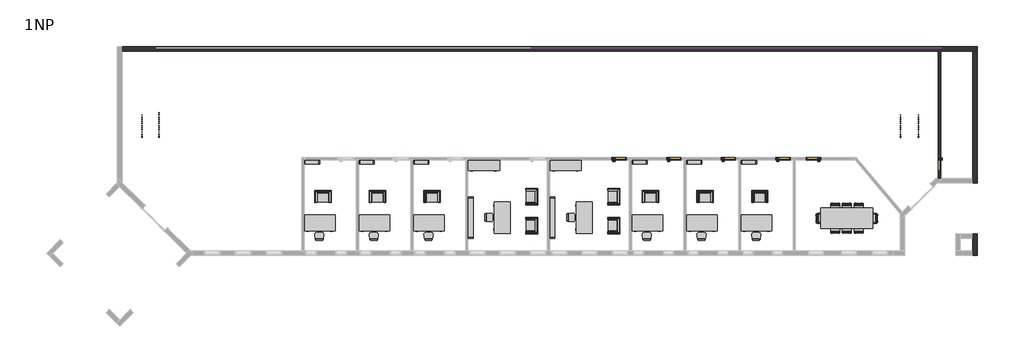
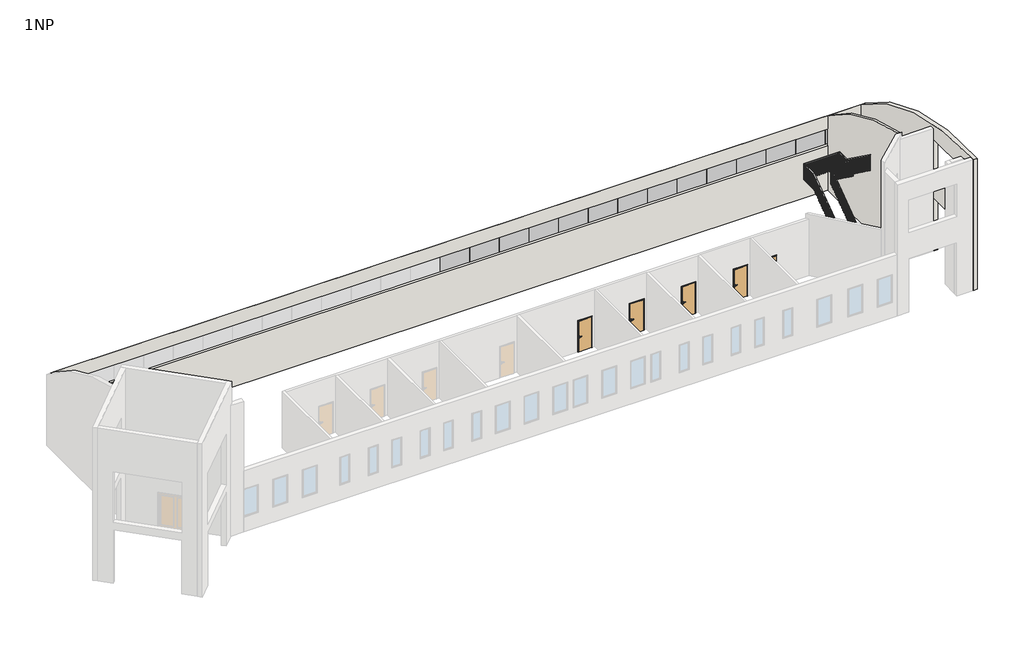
# One storey, part 3 of 3: 45 furniture elements, 14 plates, 6 doors, 4 railings, 3 walls.
"""IFC4 building model written with IfcOpenShell, lengths in millimetres."""

from ifc_helpers import new_model, si_unit, point, frame, frame_2d, origin, place, context, project, spatial, polyline, circle_curve, trimmed, segment, composite_curve, outline, extrude, transform, mapped, element, save
from ifc_brep_helpers import plane_surface, cylinder_surface, advanced_brep
from components import door_900_x_2000_4c66a93d, door_900_x_2000_c64c60ef, furniture_b7f3823b, furniture_3b363349, furniture_ccc35c8f, furniture_2764bdef, furniture_0915_x_0254_x_1830mm_1d5e155e, furniture_1200_x_3050mm_930714f4, furniture_1800_x_900mm_2fcb012d, furniture_1830_x_0610mm_1080a9db, furniture_2440_x_0305_x_2134mm_59c1a9e4, system_panel_glazed_e7f7cd54, system_panel_glazed_2bdfee25, railing_1100mm_7da75a1e, railing_1100mm_276dff7a, railing_1100mm_749a05fc, railing_1100mm_07c990a1

model = new_model("IFC4")

# Units and contexts
model_context = context("Model", 3, world=origin())
ifc_project = project(units=[si_unit("LENGTHUNIT", "METRE", prefix="MILLI")], contexts=[model_context])

# Site, building, storey
site = spatial("IfcSite", under=ifc_project)
building = spatial("IfcBuilding", under=site)
storey = spatial("IfcBuildingStorey", under=building, Name="1NP", Elevation=0.0)

# Doors
placement = place(None, origin())
door_900_x_2000_shape = door_900_x_2000_4c66a93d(model_context)
element("IfcDoor", 1, ObjectType="Jednokridle oboustrana zaruben : 900 x 2000", at=placement, inside=storey, context=model_context, shape_type="MappedRepresentation", body=[
    mapped(door_900_x_2000_shape, transform((29135.9255273, 791.5551306, 0.0), x_axis=(1.0, 0.0, 0.0), y_axis=(0.0, 1.0, 0.0), z_axis=(0.0, 0.0, 1.0))),
])
element("IfcDoor", 2, ObjectType="Jednokridle oboustrana zaruben : 900 x 2000", at=placement, inside=storey, context=model_context, shape_type="MappedRepresentation", body=[
    mapped(door_900_x_2000_shape, transform((36489.1755273, 502.5551306, 0.0), x_axis=(0.0, 1.0, 0.0), y_axis=(-1.0, 0.0, 0.0), z_axis=(0.0, 0.0, 1.0))),
])
door_900_x_2000_2_shape = door_900_x_2000_c64c60ef(model_context)
element("IfcDoor", 3, ObjectType="Jednokridle oboustrana zaruben : 900 x 2000", at=placement, inside=storey, context=model_context, shape_type="MappedRepresentation", body=[
    mapped(door_900_x_2000_2_shape, transform((20899.9255273, 791.5551306, 0.0), x_axis=(-1.0, 0.0, 0.0), y_axis=(0.0, -1.0, 0.0), z_axis=(0.0, 0.0, 1.0))),
])
element("IfcDoor", 4, ObjectType="Jednokridle oboustrana zaruben : 900 x 2000", at=placement, inside=storey, context=model_context, shape_type="MappedRepresentation", body=[
    mapped(door_900_x_2000_2_shape, transform((24099.9255273, 791.5551306, 0.0), x_axis=(-1.0, 0.0, 0.0), y_axis=(0.0, -1.0, 0.0), z_axis=(0.0, 0.0, 1.0))),
])
element("IfcDoor", 5, ObjectType="Jednokridle oboustrana zaruben : 900 x 2000", at=placement, inside=storey, context=model_context, shape_type="MappedRepresentation", body=[
    mapped(door_900_x_2000_2_shape, transform((27299.9255273, 791.5551306, 0.0), x_axis=(-1.0, 0.0, 0.0), y_axis=(0.0, -1.0, 0.0), z_axis=(0.0, 0.0, 1.0))),
])
element("IfcDoor", 6, ObjectType="Jednokridle oboustrana zaruben : 900 x 2000", at=placement, inside=storey, context=model_context, shape_type="MappedRepresentation", body=[
    mapped(door_900_x_2000_2_shape, transform((17699.9255273, 791.5551306, 0.0), x_axis=(-1.0, 0.0, 0.0), y_axis=(0.0, -1.0, 0.0), z_axis=(0.0, 0.0, 1.0))),
])

# Furniture
furniture_shape = furniture_b7f3823b(model_context)
element("IfcFurniture", 7, ObjectType="Prac.zidleH : Prac.zidleHranata", at=placement, inside=storey, context=model_context, shape_type="MappedRepresentation", body=[
    mapped(furniture_shape, transform((31897.6750188, -2087.6223918, 0.0), x_axis=(-1.0000000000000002, 0.0, 0.0), y_axis=(0.0, -1.0000000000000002, 0.0), z_axis=(0.0, 0.0, 1.0))),
])
element("IfcFurniture", 8, ObjectType="Prac.zidleH : Prac.zidleHranata", at=placement, inside=storey, context=model_context, shape_type="MappedRepresentation", body=[
    mapped(furniture_shape, transform((31615.6933794, -3325.5141951, 0.0), x_axis=(1.0000000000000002, 0.0, 0.0), y_axis=(0.0, 1.0000000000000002, 0.0), z_axis=(0.0, 0.0, 1.0))),
])
element("IfcFurniture", 9, ObjectType="Prac.zidleH : Prac.zidleHranata", at=placement, inside=storey, context=model_context, shape_type="MappedRepresentation", body=[
    mapped(furniture_shape, transform((30527.9250188, -2087.6223918, 0.0), x_axis=(-1.0000000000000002, 0.0, 0.0), y_axis=(0.0, -1.0000000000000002, 0.0), z_axis=(0.0, 0.0, 1.0))),
])
element("IfcFurniture", 10, ObjectType="Prac.zidleH : Prac.zidleHranata", at=placement, inside=storey, context=model_context, shape_type="MappedRepresentation", body=[
    mapped(furniture_shape, transform((30245.9433794, -3325.5141951, 0.0), x_axis=(1.0000000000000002, 0.0, 0.0), y_axis=(0.0, 1.0000000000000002, 0.0), z_axis=(0.0, 0.0, 1.0))),
])
element("IfcFurniture", 11, ObjectType="Prac.zidleH : Prac.zidleHranata", at=placement, inside=storey, context=model_context, shape_type="MappedRepresentation", body=[
    mapped(furniture_shape, transform((31212.8000188, -2087.6223918, 0.0), x_axis=(-1.0000000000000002, 0.0, 0.0), y_axis=(0.0, -1.0000000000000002, 0.0), z_axis=(0.0, 0.0, 1.0))),
])
element("IfcFurniture", 12, ObjectType="Prac.zidleH : Prac.zidleHranata", at=placement, inside=storey, context=model_context, shape_type="MappedRepresentation", body=[
    mapped(furniture_shape, transform((30930.8183794, -3325.5141951, 0.0), x_axis=(1.0000000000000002, 0.0, 0.0), y_axis=(0.0, 1.0000000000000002, 0.0), z_axis=(0.0, 0.0, 1.0))),
])
furniture_2_shape = furniture_3b363349(model_context)
element("IfcFurniture", 13, ObjectType="Prac.zidleP : Prac.zidlePodrucky", at=placement, inside=storey, context=model_context, shape_type="MappedRepresentation", body=[
    mapped(furniture_2_shape, transform((32615.6301008, -2847.5591131, 0.0), x_axis=(0.0, 1.0000000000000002, 0.0), y_axis=(-1.0000000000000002, 0.0, 0.0), z_axis=(0.0, 0.0, 1.0))),
])
element("IfcFurniture", 14, ObjectType="Prac.zidleP : Prac.zidlePodrucky", at=placement, inside=storey, context=model_context, shape_type="MappedRepresentation", body=[
    mapped(furniture_2_shape, transform((29527.7382975, -2565.5774738, 0.0), x_axis=(0.0, -1.0000000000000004, 0.0), y_axis=(1.0000000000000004, 0.0, 0.0), z_axis=(0.0, 0.0, 1.0))),
])
furniture_3_shape = furniture_ccc35c8f(model_context)
element("IfcFurniture", 15, ObjectType="Prac.zidle : prac.zidleZaobl", at=placement, inside=storey, context=model_context, shape_type="MappedRepresentation", body=[
    mapped(furniture_3_shape, transform((149.9255273, -3938.9177984, 0.0), x_axis=(1.0, 0.0, 0.0), y_axis=(0.0, 1.0, 0.0), z_axis=(0.0, 0.0, 1.0))),
])
element("IfcFurniture", 16, ObjectType="Prac.zidle : prac.zidleZaobl", at=placement, inside=storey, context=model_context, shape_type="MappedRepresentation", body=[
    mapped(furniture_3_shape, transform((3349.9255273, -3938.9177984, 0.0), x_axis=(1.0, 0.0, 0.0), y_axis=(0.0, 1.0, 0.0), z_axis=(0.0, 0.0, 1.0))),
])
element("IfcFurniture", 17, ObjectType="Prac.zidle : prac.zidleZaobl", at=placement, inside=storey, context=model_context, shape_type="MappedRepresentation", body=[
    mapped(furniture_3_shape, transform((6549.9255273, -3938.9177984, 0.0), x_axis=(1.0, 0.0, 0.0), y_axis=(0.0, 1.0, 0.0), z_axis=(0.0, 0.0, 1.0))),
])
element("IfcFurniture", 18, ObjectType="Prac.zidle : prac.zidleZaobl", at=placement, inside=storey, context=model_context, shape_type="MappedRepresentation", body=[
    mapped(furniture_3_shape, transform((9920.3097542, -2661.8601839, 0.0), x_axis=(0.0, -1.0000000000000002, 0.0), y_axis=(1.0000000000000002, 0.0, 0.0), z_axis=(0.0, 0.0, 1.0))),
])
element("IfcFurniture", 19, ObjectType="Prac.zidle : prac.zidleZaobl", at=placement, inside=storey, context=model_context, shape_type="MappedRepresentation", body=[
    mapped(furniture_3_shape, transform((19349.9255273, -3938.9177984, 0.0), x_axis=(1.0, 0.0, 0.0), y_axis=(0.0, 1.0, 0.0), z_axis=(0.0, 0.0, 1.0))),
])
element("IfcFurniture", 20, ObjectType="Prac.zidle : prac.zidleZaobl", at=placement, inside=storey, context=model_context, shape_type="MappedRepresentation", body=[
    mapped(furniture_3_shape, transform((22549.9255273, -3938.9177984, 0.0), x_axis=(1.0, 0.0, 0.0), y_axis=(0.0, 1.0, 0.0), z_axis=(0.0, 0.0, 1.0))),
])
element("IfcFurniture", 21, ObjectType="Prac.zidle : prac.zidleZaobl", at=placement, inside=storey, context=model_context, shape_type="MappedRepresentation", body=[
    mapped(furniture_3_shape, transform((25749.9255273, -3938.9177984, 0.0), x_axis=(1.0, 0.0, 0.0), y_axis=(0.0, 1.0, 0.0), z_axis=(0.0, 0.0, 1.0))),
])
element("IfcFurniture", 22, ObjectType="Prac.zidle : prac.zidleZaobl", at=placement, inside=storey, context=model_context, shape_type="MappedRepresentation", body=[
    mapped(furniture_3_shape, transform((14720.3097542, -2661.8601839, 0.0), x_axis=(0.0, -1.0, 0.0), y_axis=(1.0, 0.0, 0.0), z_axis=(0.0, 0.0, 1.0))),
])
furniture_4_shape = furniture_2764bdef(model_context)
element("IfcFurniture", 23, ObjectType="KresilkoCorbusier : KresilkoCorbusier", at=placement, inside=storey, context=model_context, shape_type="MappedRepresentation", body=[
    mapped(furniture_4_shape, transform((2989.3517568, -1887.3719186, 0.0), x_axis=(1.0, 0.0, 0.0), y_axis=(0.0, 1.0, 0.0), z_axis=(0.0, 0.0, 1.0))),
])
element("IfcFurniture", 24, ObjectType="KresilkoCorbusier : KresilkoCorbusier", at=placement, inside=storey, context=model_context, shape_type="MappedRepresentation", body=[
    mapped(furniture_4_shape, transform((-210.6482432, -1887.3719186, 0.0), x_axis=(1.0, 0.0, 0.0), y_axis=(0.0, 1.0, 0.0), z_axis=(0.0, 0.0, 1.0))),
])
element("IfcFurniture", 25, ObjectType="KresilkoCorbusier : KresilkoCorbusier", at=placement, inside=storey, context=model_context, shape_type="MappedRepresentation", body=[
    mapped(furniture_4_shape, transform((6189.3517568, -1887.3719186, 0.0), x_axis=(1.0, 0.0, 0.0), y_axis=(0.0, 1.0, 0.0), z_axis=(0.0, 0.0, 1.0))),
])
element("IfcFurniture", 26, ObjectType="KresilkoCorbusier : KresilkoCorbusier", at=placement, inside=storey, context=model_context, shape_type="MappedRepresentation", body=[
    mapped(furniture_4_shape, transform((12135.7353038, -861.9944392, 0.0), x_axis=(0.0, -1.0000000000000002, 0.0), y_axis=(1.0000000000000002, 0.0, 0.0), z_axis=(0.0, 0.0, 1.0))),
])
element("IfcFurniture", 27, ObjectType="KresilkoCorbusier : KresilkoCorbusier", at=placement, inside=storey, context=model_context, shape_type="MappedRepresentation", body=[
    mapped(furniture_4_shape, transform((18989.3517568, -1887.3719186, 0.0), x_axis=(1.0, 0.0, 0.0), y_axis=(0.0, 1.0, 0.0), z_axis=(0.0, 0.0, 1.0))),
])
element("IfcFurniture", 28, ObjectType="KresilkoCorbusier : KresilkoCorbusier", at=placement, inside=storey, context=model_context, shape_type="MappedRepresentation", body=[
    mapped(furniture_4_shape, transform((22189.3517568, -1887.3719186, 0.0), x_axis=(1.0, 0.0, 0.0), y_axis=(0.0, 1.0, 0.0), z_axis=(0.0, 0.0, 1.0))),
])
element("IfcFurniture", 29, ObjectType="KresilkoCorbusier : KresilkoCorbusier", at=placement, inside=storey, context=model_context, shape_type="MappedRepresentation", body=[
    mapped(furniture_4_shape, transform((25389.3517568, -1887.3719186, 0.0), x_axis=(1.0, 0.0, 0.0), y_axis=(0.0, 1.0, 0.0), z_axis=(0.0, 0.0, 1.0))),
])
element("IfcFurniture", 30, ObjectType="KresilkoCorbusier : KresilkoCorbusier", at=placement, inside=storey, context=model_context, shape_type="MappedRepresentation", body=[
    mapped(furniture_4_shape, transform((12135.7353038, -2557.1944392, 0.0), x_axis=(0.0, -1.0000000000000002, 0.0), y_axis=(1.0000000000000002, 0.0, 0.0), z_axis=(0.0, 0.0, 1.0))),
])
element("IfcFurniture", 31, ObjectType="KresilkoCorbusier : KresilkoCorbusier", at=placement, inside=storey, context=model_context, shape_type="MappedRepresentation", body=[
    mapped(furniture_4_shape, transform((16935.7353038, -861.9944392, 0.0), x_axis=(0.0, -1.0, 0.0), y_axis=(1.0, 0.0, 0.0), z_axis=(0.0, 0.0, 1.0))),
])
element("IfcFurniture", 32, ObjectType="KresilkoCorbusier : KresilkoCorbusier", at=placement, inside=storey, context=model_context, shape_type="MappedRepresentation", body=[
    mapped(furniture_4_shape, transform((16935.7353038, -2557.1944392, 0.0), x_axis=(0.0, -1.0, 0.0), y_axis=(1.0, 0.0, 0.0), z_axis=(0.0, 0.0, 1.0))),
])
furniture_0915_x_0254_x_1830mm_shape = furniture_0915_x_0254_x_1830mm_1d5e155e(model_context)
element("IfcFurniture", 33, ObjectType="PolicovaSkrin : 0915 x 0254 x 1830mm", at=placement, inside=storey, context=model_context, shape_type="MappedRepresentation", body=[
    mapped(furniture_0915_x_0254_x_1830mm_shape, transform((-284.0744727, 900.1051306, 0.0), x_axis=(1.0, 0.0, 0.0), y_axis=(0.0, 1.0, 0.0), z_axis=(0.0, 0.0, 1.0))),
])
element("IfcFurniture", 34, ObjectType="PolicovaSkrin : 0915 x 0254 x 1830mm", at=placement, inside=storey, context=model_context, shape_type="MappedRepresentation", body=[
    mapped(furniture_0915_x_0254_x_1830mm_shape, transform((2915.9255273, 900.1051306, 0.0), x_axis=(1.0, 0.0, 0.0), y_axis=(0.0, 1.0, 0.0), z_axis=(0.0, 0.0, 1.0))),
])
element("IfcFurniture", 35, ObjectType="PolicovaSkrin : 0915 x 0254 x 1830mm", at=placement, inside=storey, context=model_context, shape_type="MappedRepresentation", body=[
    mapped(furniture_0915_x_0254_x_1830mm_shape, transform((6115.9255273, 900.1051306, 0.0), x_axis=(1.0, 0.0, 0.0), y_axis=(0.0, 1.0, 0.0), z_axis=(0.0, 0.0, 1.0))),
])
element("IfcFurniture", 36, ObjectType="PolicovaSkrin : 0915 x 0254 x 1830mm", at=placement, inside=storey, context=model_context, shape_type="MappedRepresentation", body=[
    mapped(furniture_0915_x_0254_x_1830mm_shape, transform((18915.9255273, 900.1051306, 0.0), x_axis=(1.0, 0.0, 0.0), y_axis=(0.0, 1.0, 0.0), z_axis=(0.0, 0.0, 1.0))),
])
element("IfcFurniture", 37, ObjectType="PolicovaSkrin : 0915 x 0254 x 1830mm", at=placement, inside=storey, context=model_context, shape_type="MappedRepresentation", body=[
    mapped(furniture_0915_x_0254_x_1830mm_shape, transform((22115.9255273, 900.1051306, 0.0), x_axis=(1.0, 0.0, 0.0), y_axis=(0.0, 1.0, 0.0), z_axis=(0.0, 0.0, 1.0))),
])
element("IfcFurniture", 38, ObjectType="PolicovaSkrin : 0915 x 0254 x 1830mm", at=placement, inside=storey, context=model_context, shape_type="MappedRepresentation", body=[
    mapped(furniture_0915_x_0254_x_1830mm_shape, transform((25315.9255273, 900.1051306, 0.0), x_axis=(1.0, 0.0, 0.0), y_axis=(0.0, 1.0, 0.0), z_axis=(0.0, 0.0, 1.0))),
])
furniture_1200_x_3050mm_shape = furniture_1200_x_3050mm_930714f4(model_context)
element("IfcFurniture", 39, ObjectType="Konf.stul : 1200 x 3050mm", at=placement, inside=storey, context=model_context, shape_type="MappedRepresentation", body=[
    mapped(furniture_1200_x_3050mm_shape, transform((31071.6841991, -2706.5682935, 0.0), x_axis=(-1.0000000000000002, 0.0, 0.0), y_axis=(0.0, -1.0000000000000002, 0.0), z_axis=(0.0, 0.0, 1.0))),
])
furniture_1800_x_900mm_shape = furniture_1800_x_900mm_2fcb012d(model_context)
element("IfcFurniture", 40, ObjectType="Prac.stul : 1800 x 900mm", at=placement, inside=storey, context=model_context, shape_type="MappedRepresentation", body=[
    mapped(furniture_1800_x_900mm_shape, transform((1058.4255273, -2534.8677984, 0.0), x_axis=(-1.0, 0.0, 0.0), y_axis=(0.0, -1.0, 0.0), z_axis=(0.0, 0.0, 1.0))),
])
element("IfcFurniture", 41, ObjectType="Prac.stul : 1800 x 900mm", at=placement, inside=storey, context=model_context, shape_type="MappedRepresentation", body=[
    mapped(furniture_1800_x_900mm_shape, transform((4258.4255273, -2534.8677984, 0.0), x_axis=(-1.0, 0.0, 0.0), y_axis=(0.0, -1.0, 0.0), z_axis=(0.0, 0.0, 1.0))),
])
element("IfcFurniture", 42, ObjectType="Prac.stul : 1800 x 900mm", at=placement, inside=storey, context=model_context, shape_type="MappedRepresentation", body=[
    mapped(furniture_1800_x_900mm_shape, transform((7458.4255273, -2534.8677984, 0.0), x_axis=(-1.0, 0.0, 0.0), y_axis=(0.0, -1.0, 0.0), z_axis=(0.0, 0.0, 1.0))),
])
element("IfcFurniture", 43, ObjectType="Prac.stul : 1800 x 900mm", at=placement, inside=storey, context=model_context, shape_type="MappedRepresentation", body=[
    mapped(furniture_1800_x_900mm_shape, transform((11324.3597542, -3570.3601839, 0.0), x_axis=(0.0, 1.0000000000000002, 0.0), y_axis=(-1.0000000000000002, 0.0, 0.0), z_axis=(0.0, 0.0, 1.0))),
])
element("IfcFurniture", 44, ObjectType="Prac.stul : 1800 x 900mm", at=placement, inside=storey, context=model_context, shape_type="MappedRepresentation", body=[
    mapped(furniture_1800_x_900mm_shape, transform((20258.4255273, -2534.8677984, 0.0), x_axis=(-1.0, 0.0, 0.0), y_axis=(0.0, -1.0, 0.0), z_axis=(0.0, 0.0, 1.0))),
])
element("IfcFurniture", 45, ObjectType="Prac.stul : 1800 x 900mm", at=placement, inside=storey, context=model_context, shape_type="MappedRepresentation", body=[
    mapped(furniture_1800_x_900mm_shape, transform((23458.4255273, -2534.8677984, 0.0), x_axis=(-1.0, 0.0, 0.0), y_axis=(0.0, -1.0, 0.0), z_axis=(0.0, 0.0, 1.0))),
])
element("IfcFurniture", 46, ObjectType="Prac.stul : 1800 x 900mm", at=placement, inside=storey, context=model_context, shape_type="MappedRepresentation", body=[
    mapped(furniture_1800_x_900mm_shape, transform((26658.4255273, -2534.8677984, 0.0), x_axis=(-1.0, 0.0, 0.0), y_axis=(0.0, -1.0, 0.0), z_axis=(0.0, 0.0, 1.0))),
])
element("IfcFurniture", 47, ObjectType="Prac.stul : 1800 x 900mm", at=placement, inside=storey, context=model_context, shape_type="MappedRepresentation", body=[
    mapped(furniture_1800_x_900mm_shape, transform((16124.3597542, -3570.3601839, 0.0), x_axis=(0.0, 1.0, 0.0), y_axis=(-1.0, 0.0, 0.0), z_axis=(0.0, 0.0, 1.0))),
])
furniture_1830_x_0610mm_shape = furniture_1830_x_0610mm_1080a9db(model_context)
element("IfcFurniture", 48, ObjectType="SkrinNizka : 1830 x 0610mm", at=placement, inside=storey, context=model_context, shape_type="MappedRepresentation", body=[
    mapped(furniture_1830_x_0610mm_shape, transform((9713.881265, 412.7248027, 0.0), x_axis=(1.0, 0.0, 0.0), y_axis=(0.0, 1.0, 0.0), z_axis=(0.0, 0.0, 1.0))),
])
element("IfcFurniture", 49, ObjectType="SkrinNizka : 1830 x 0610mm", at=placement, inside=storey, context=model_context, shape_type="MappedRepresentation", body=[
    mapped(furniture_1830_x_0610mm_shape, transform((14513.881265, 412.7248027, 0.0), x_axis=(1.0, 0.0, 0.0), y_axis=(0.0, 1.0, 0.0), z_axis=(0.0, 0.0, 1.0))),
])
furniture_2440_x_0305_x_2134mm_shape = furniture_2440_x_0305_x_2134mm_59c1a9e4(model_context)
element("IfcFurniture", 50, ObjectType="PolicovaSkrin : 2440 x 0305 x 2134mm", at=placement, inside=storey, context=model_context, shape_type="MappedRepresentation", body=[
    mapped(furniture_2440_x_0305_x_2134mm_shape, transform((9315.7255273, -2670.3601839, 0.0), x_axis=(0.0, -1.0000000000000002, 0.0), y_axis=(1.0000000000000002, 0.0, 0.0), z_axis=(0.0, 0.0, 1.0))),
])
element("IfcFurniture", 51, ObjectType="PolicovaSkrin : 2440 x 0305 x 2134mm", at=placement, inside=storey, context=model_context, shape_type="MappedRepresentation", body=[
    mapped(furniture_2440_x_0305_x_2134mm_shape, transform((14115.7255273, -2670.3601839, 0.0), x_axis=(0.0, -1.0, 0.0), y_axis=(1.0, 0.0, 0.0), z_axis=(0.0, 0.0, 1.0))),
])

# Plates
system_panel_glazed_shape = system_panel_glazed_e7f7cd54(model_context)
element("IfcPlate", 52, ObjectType="System Panel : Glazed", at=placement, inside=storey, context=model_context, shape_type="MappedRepresentation", body=[
    mapped(system_panel_glazed_shape, transform((13464.1755273, 7241.5551306, 2916.2475184), x_axis=(1.0, 0.0, 0.0), y_axis=(0.0, 1.0, 0.0), z_axis=(0.0, 0.0, 1.0))),
])
element("IfcPlate", 53, ObjectType="System Panel : Glazed", at=placement, inside=storey, context=model_context, shape_type="MappedRepresentation", body=[
    mapped(system_panel_glazed_shape, transform((15294.1755273, 7241.5551306, 2916.2475184), x_axis=(1.0, 0.0, 0.0), y_axis=(0.0, 1.0, 0.0), z_axis=(0.0, 0.0, 1.0))),
])
element("IfcPlate", 54, ObjectType="System Panel : Glazed", at=placement, inside=storey, context=model_context, shape_type="MappedRepresentation", body=[
    mapped(system_panel_glazed_shape, transform((17124.1755273, 7241.5551306, 2916.2475184), x_axis=(1.0, 0.0, 0.0), y_axis=(0.0, 1.0, 0.0), z_axis=(0.0, 0.0, 1.0))),
])
element("IfcPlate", 55, ObjectType="System Panel : Glazed", at=placement, inside=storey, context=model_context, shape_type="MappedRepresentation", body=[
    mapped(system_panel_glazed_shape, transform((18954.1755273, 7241.5551306, 2916.2475184), x_axis=(1.0, 0.0, 0.0), y_axis=(0.0, 1.0, 0.0), z_axis=(0.0, 0.0, 1.0))),
])
element("IfcPlate", 56, ObjectType="System Panel : Glazed", at=placement, inside=storey, context=model_context, shape_type="MappedRepresentation", body=[
    mapped(system_panel_glazed_shape, transform((20784.1755273, 7241.5551306, 2916.2475184), x_axis=(1.0, 0.0, 0.0), y_axis=(0.0, 1.0, 0.0), z_axis=(0.0, 0.0, 1.0))),
])
element("IfcPlate", 57, ObjectType="System Panel : Glazed", at=placement, inside=storey, context=model_context, shape_type="MappedRepresentation", body=[
    mapped(system_panel_glazed_shape, transform((22614.1755273, 7241.5551306, 2916.2475184), x_axis=(1.0, 0.0, 0.0), y_axis=(0.0, 1.0, 0.0), z_axis=(0.0, 0.0, 1.0))),
])
element("IfcPlate", 58, ObjectType="System Panel : Glazed", at=placement, inside=storey, context=model_context, shape_type="MappedRepresentation", body=[
    mapped(system_panel_glazed_shape, transform((24444.1755273, 7241.5551306, 2916.2475184), x_axis=(1.0, 0.0, 0.0), y_axis=(0.0, 1.0, 0.0), z_axis=(0.0, 0.0, 1.0))),
])
element("IfcPlate", 59, ObjectType="System Panel : Glazed", at=placement, inside=storey, context=model_context, shape_type="MappedRepresentation", body=[
    mapped(system_panel_glazed_shape, transform((26274.1755273, 7241.5551306, 2916.2475184), x_axis=(1.0, 0.0, 0.0), y_axis=(0.0, 1.0, 0.0), z_axis=(0.0, 0.0, 1.0))),
])
element("IfcPlate", 60, ObjectType="System Panel : Glazed", at=placement, inside=storey, context=model_context, shape_type="MappedRepresentation", body=[
    mapped(system_panel_glazed_shape, transform((28104.1755273, 7241.5551306, 2916.2475184), x_axis=(1.0, 0.0, 0.0), y_axis=(0.0, 1.0, 0.0), z_axis=(0.0, 0.0, 1.0))),
])
element("IfcPlate", 61, ObjectType="System Panel : Glazed", at=placement, inside=storey, context=model_context, shape_type="MappedRepresentation", body=[
    mapped(system_panel_glazed_shape, transform((29934.1755273, 7241.5551306, 2916.2475184), x_axis=(1.0, 0.0, 0.0), y_axis=(0.0, 1.0, 0.0), z_axis=(0.0, 0.0, 1.0))),
])
element("IfcPlate", 62, ObjectType="System Panel : Glazed", at=placement, inside=storey, context=model_context, shape_type="MappedRepresentation", body=[
    mapped(system_panel_glazed_shape, transform((31764.1755273, 7241.5551306, 2916.2475184), x_axis=(1.0, 0.0, 0.0), y_axis=(0.0, 1.0, 0.0), z_axis=(0.0, 0.0, 1.0))),
])
element("IfcPlate", 63, ObjectType="System Panel : Glazed", at=placement, inside=storey, context=model_context, shape_type="MappedRepresentation", body=[
    mapped(system_panel_glazed_shape, transform((33594.1755273, 7241.5551306, 2916.2475184), x_axis=(1.0, 0.0, 0.0), y_axis=(0.0, 1.0, 0.0), z_axis=(0.0, 0.0, 1.0))),
])
element("IfcPlate", 64, ObjectType="System Panel : Glazed", at=placement, inside=storey, context=model_context, shape_type="MappedRepresentation", body=[
    mapped(system_panel_glazed_shape, transform((35424.1755273, 7241.5551306, 2916.2475184), x_axis=(1.0, 0.0, 0.0), y_axis=(0.0, 1.0, 0.0), z_axis=(0.0, 0.0, 1.0))),
])
system_panel_glazed_2_shape = system_panel_glazed_2bdfee25(model_context)
element("IfcPlate", 65, ObjectType="System Panel : Glazed", at=placement, inside=storey, context=model_context, shape_type="MappedRepresentation", body=[
    mapped(system_panel_glazed_2_shape, transform((36464.1755273, 7241.5551306, 2916.2475184), x_axis=(1.0, 0.0, 0.0), y_axis=(0.0, 1.0, 0.0), z_axis=(0.0, 0.0, 1.0))),
])

# Railings
railing_1100mm_shape = railing_1100mm_7da75a1e(model_context)
element("IfcRailing", 66, ObjectType="1100mm", at=placement, inside=storey, context=model_context, shape_type="MappedRepresentation", body=[
    mapped(railing_1100mm_shape, transform((0.0, 0.0, 0.0), x_axis=(1.0, 0.0, 0.0), y_axis=(0.0, 1.0, 0.0), z_axis=(0.0, 0.0, 1.0))),
])
railing_1100mm_2_shape = railing_1100mm_276dff7a(model_context)
element("IfcRailing", 67, ObjectType="1100mm", at=placement, inside=storey, context=model_context, shape_type="MappedRepresentation", body=[
    mapped(railing_1100mm_2_shape, transform((0.0, 0.0, 0.0), x_axis=(1.0, 0.0, 0.0), y_axis=(0.0, 1.0, 0.0), z_axis=(0.0, 0.0, 1.0))),
])
railing_1100mm_3_shape = railing_1100mm_749a05fc(model_context)
element("IfcRailing", 68, ObjectType="1100mm", at=placement, inside=storey, context=model_context, shape_type="MappedRepresentation", body=[
    mapped(railing_1100mm_3_shape, transform((0.0, 0.0, 0.0), x_axis=(1.0, 0.0, 0.0), y_axis=(0.0, 1.0, 0.0), z_axis=(0.0, 0.0, 1.0))),
])
railing_1100mm_4_shape = railing_1100mm_07c990a1(model_context)
element("IfcRailing", 69, ObjectType="1100mm", at=placement, inside=storey, context=model_context, shape_type="MappedRepresentation", body=[
    mapped(railing_1100mm_4_shape, transform((0.0, 0.0, 0.0), x_axis=(1.0, 0.0, 0.0), y_axis=(0.0, 1.0, 0.0), z_axis=(0.0, 0.0, 1.0))),
])

# Walls
element("IfcWall", 70, ObjectType="Exterior - EIFS on Mtl. Stud", at=placement, inside=storey, context=model_context, shape_type="AdvancedBrep", body=[
    advanced_brep(
    [(-11410.8244727, 7108.0551306, 0.0), (36419.9255273, 7108.0551306, 0.0), (36558.4255273, 7108.0551306, 0.0), (38455.6755273, 7108.0551306, 0.0), (38722.6755273, 7108.0551306, 0.0), (38722.6755273, 7108.0551306, 4858.4183068), (38455.6755273, 7108.0551306, 4858.4183068), (36558.4255273, 7108.0551306, 4858.4183068), (36419.9255273, 7108.0551306, 4858.4183068), (-11410.8244727, 7108.0551306, 4858.4183068), (-9410.8244727, 7108.0551306, 2916.2475184), (-9410.8244727, 7108.0551306, 4000.0), (36589.1755273, 7108.0551306, 4000.0), (36589.1755273, 7108.0551306, 2916.2475184), (38722.6755273, 7375.0551306, 0.0), (-11410.8244727, 7375.0551306, 0.0), (-11410.8244727, 7375.0551306, 4647.9646014), (38722.6755273, 7375.0551306, 4647.9646014), (-9410.8244727, 7375.0551306, 4000.0), (-9410.8244727, 7375.0551306, 2916.2475184), (36589.1755273, 7375.0551306, 2916.2475184), (36589.1755273, 7375.0551306, 4000.0)],
    [
        (0, 1),
        (1, 2),
        (2, 3),
        (3, 4),
        (4, 5),
        (5, 6),
        (6, 7),
        (7, 8),
        (8, 9),
        (9, 0),
        (10, 11),
        (11, 12),
        (12, 13),
        (13, 10),
        (14, 15),
        (15, 16),
        (16, 17),
        (17, 14),
        (18, 19),
        (19, 20),
        (20, 21),
        (21, 18),
        (0, 15),
        (14, 4),
        (17, 5, circle_curve(frame((38722.6755273, -3782.5530793, -9232.9575956), z_axis=(1.0, 0.0, 0.0), x_axis=(0.0, -1.0, 0.0)), 17809.3296337)),
        (9, 16, circle_curve(frame((-11410.8244727, -3782.5530793, -9232.9575956), z_axis=(-1.0, 0.0, 0.0), x_axis=(0.0, -1.0, 0.0)), 17809.3296337)),
        (10, 19),
        (18, 11),
        (21, 12),
        (20, 13),
    ],
    [
        plane_surface(frame((-5544.3244727, 7108.0551306, 0.0), z_axis=(0.0, -1.0, 0.0), x_axis=(1.0, 0.0, 0.0))),
        plane_surface(frame((-5544.3244727, 7375.0551306, 0.0), z_axis=(0.0, 1.0, 0.0), x_axis=(-1.0, 0.0, 0.0))),
        plane_surface(frame((-11544.3244727, 7108.0551306, 0.0), z_axis=(0.0, 0.0, -1.0), x_axis=(0.0, 1.0, 0.0))),
        plane_surface(frame((38722.6755273, 5741.5551306, 0.0), z_axis=(1.0, 0.0, 0.0), x_axis=(0.0, 1.0, 0.0))),
        plane_surface(frame((-11410.8244727, -6258.4448694, 0.0), z_axis=(-1.0, 0.0, 0.0), x_axis=(0.0, 1.0, 0.0))),
        cylinder_surface(frame((39922.6755273, -3782.5530793, -9232.9575956), z_axis=(1.0, 0.0, 0.0), x_axis=(0.0, -1.0, 0.0)), 17809.3296337),
        plane_surface(frame((-9410.8244727, 7527.4551306, 2916.2475184), z_axis=(1.0, 0.0, 0.0), x_axis=(0.0, -1.0, 0.0))),
        plane_surface(frame((-9410.8244727, 7527.4551306, 4000.0), z_axis=(0.0, 0.0, -1.0), x_axis=(0.0, -1.0, 0.0))),
        plane_surface(frame((36589.1755273, 7527.4551306, 4000.0), z_axis=(-1.0, 0.0, 0.0), x_axis=(0.0, -1.0, 0.0))),
        plane_surface(frame((36589.1755273, 7527.4551306, 2916.2475184), z_axis=(0.0, 0.0, 1.0), x_axis=(0.0, -1.0, 0.0))),
    ],
    [
        (0, [[1, 2, 3, 4, 5, 6, 7, 8, 9, 10], [11, 12, 13, 14]]),
        (1, [[15, 16, 17, 18], [19, 20, 21, 22]]),
        (2, [[-4, -3, -2, -1, 23, -15, 24]]),
        (3, [[-5, -24, -18, 25]]),
        (4, [[-10, 26, -16, -23]]),
        (5, [[-9, -8, -7, -6, -25, -17, -26]]),
        (6, [[27, -19, 28, -11]]),
        (7, [[-28, -22, 29, -12]]),
        (8, [[-29, -21, 30, -13]]),
        (9, [[-27, -14, -30, -20]]),
    ],
),
])
element("IfcWall", 71, ObjectType="Exterior - EIFS on Mtl. Stud", at=placement, inside=storey, context=model_context, shape_type="AdvancedBrep", body=[
    advanced_brep(
    [(38455.6755273, 7108.0551306, 0.0), (38455.6755273, -374.9448694, 0.0), (38455.6755273, -641.9448694, 0.0), (38455.6755273, -641.9448694, 3500.0), (38455.6755273, -3624.9448694, 3500.0), (38455.6755273, -3624.9448694, 0.0), (38455.6755273, -3891.9448694, 0.0), (38455.6755273, -4624.9448694, 0.0), (38455.6755273, -4891.9448694, 0.0), (38455.6755273, -4891.9448694, 8541.7849302), (38455.6755273, -4624.9249558, 8556.4388364), (38455.6755273, 7108.0551306, 4858.4183068), (38455.6755273, -641.9448694, 5200.0), (38455.6755273, -641.9448694, 7300.0), (38455.6755273, -3624.9448694, 7300.0), (38455.6755273, -3624.9448694, 5200.0), (38722.6755273, 7108.0551306, 0.0), (38722.6755273, 7108.0551306, 4858.4183068), (38722.6755273, -4891.9448694, 8541.7849302), (38722.6755273, -4891.9448694, 0.0), (38722.6755273, -3624.9448694, 0.0), (38722.6755273, -3624.9448694, 3500.0), (38722.6755273, -641.9448694, 3500.0), (38722.6755273, -641.9448694, 0.0), (38722.6755273, -641.9448694, 5200.0), (38722.6755273, -3624.9448694, 5200.0), (38722.6755273, -3624.9448694, 7300.0), (38722.6755273, -641.9448694, 7300.0)],
    [
        (0, 1),
        (1, 2),
        (2, 3),
        (3, 4),
        (4, 5),
        (5, 6),
        (6, 7),
        (7, 8),
        (8, 9),
        (9, 10, circle_curve(frame((38455.6755273, -3782.5530793, -9232.9575956), z_axis=(-1.0, 0.0, 0.0), x_axis=(0.0, -1.0, 0.0)), 17809.3296337)),
        (10, 11, circle_curve(frame((38455.6755273, -3782.5530793, -9232.9575956), z_axis=(-1.0, 0.0, 0.0), x_axis=(0.0, -1.0, 0.0)), 17809.3294594)),
        (11, 0),
        (12, 13),
        (13, 14),
        (14, 15),
        (15, 12),
        (16, 17),
        (17, 18, circle_curve(frame((38722.6755273, -3782.5530793, -9232.9575956), z_axis=(1.0, 0.0, 0.0), x_axis=(0.0, -1.0, 0.0)), 17809.3296337)),
        (18, 19),
        (19, 20),
        (20, 21),
        (21, 22),
        (22, 23),
        (23, 16),
        (24, 25),
        (25, 26),
        (26, 27),
        (27, 24),
        (0, 16),
        (23, 2),
        (3, 22),
        (21, 4),
        (5, 20),
        (19, 8),
        (13, 27),
        (26, 14),
        (15, 25),
        (24, 12),
        (18, 9),
        (11, 17),
    ],
    [
        plane_surface(frame((38455.6755273, 5741.5551306, 0.0), z_axis=(-1.0, 0.0, 0.0), x_axis=(0.0, -1.0, 0.0))),
        plane_surface(frame((38722.6755273, 5741.5551306, 0.0), z_axis=(1.0, 0.0, 0.0), x_axis=(0.0, 1.0, 0.0))),
        plane_surface(frame((38455.6755273, 7241.5551306, 0.0), z_axis=(0.0, 0.0, -1.0), x_axis=(1.0, 0.0, 0.0))),
        plane_surface(frame((38455.6755273, -508.4448694, 3500.0), z_axis=(0.0, 0.0, -1.0), x_axis=(1.0, 0.0, 0.0))),
        plane_surface(frame((38455.6755273, -3758.4448694, 0.0), z_axis=(0.0, 0.0, -1.0), x_axis=(1.0, 0.0, 0.0))),
        plane_surface(frame((38455.6755273, -508.4448694, 7300.0), z_axis=(0.0, 0.0, -1.0), x_axis=(1.0, 0.0, 0.0))),
        plane_surface(frame((38455.6755273, -3758.4448694, 5200.0), z_axis=(0.0, 0.0, 1.0), x_axis=(1.0, 0.0, 0.0))),
        plane_surface(frame((12455.6755273, -4891.9448694, 0.0), z_axis=(0.0, -1.0, 0.0), x_axis=(1.0, 0.0, 0.0))),
        plane_surface(frame((-5544.3244727, 7108.0551306, 0.0), z_axis=(0.0, 1.0, 0.0), x_axis=(1.0, 0.0, 0.0))),
        plane_surface(frame((38455.6755273, -641.9448694, 0.0), z_axis=(0.0, -1.0, 0.0), x_axis=(1.0, 0.0, 0.0))),
        plane_surface(frame((37555.6755273, -3624.9448694, 0.0), z_axis=(0.0, 1.0, 0.0), x_axis=(-1.0, 0.0, 0.0))),
        cylinder_surface(frame((39922.6755273, -3782.5530793, -9232.9575956), z_axis=(1.0, 0.0, 0.0), x_axis=(0.0, -1.0, 0.0)), 17809.3296337),
    ],
    [
        (0, [[1, 2, 3, 4, 5, 6, 7, 8, 9, 10, 11, 12], [13, 14, 15, 16]]),
        (1, [[17, 18, 19, 20, 21, 22, 23, 24], [25, 26, 27, 28]]),
        (2, [[-2, -1, 29, -24, 30]]),
        (3, [[-4, 31, -22, 32]]),
        (4, [[-8, -7, -6, 33, -20, 34]]),
        (5, [[-14, 35, -27, 36]]),
        (6, [[-16, 37, -25, 38]]),
        (7, [[-9, -34, -19, 39]]),
        (8, [[-12, 40, -17, -29]]),
        (9, [[-3, -30, -23, -31]]),
        (9, [[-13, -38, -28, -35]]),
        (10, [[-5, -32, -21, -33]]),
        (10, [[-15, -36, -26, -37]]),
        (11, [[-11, -10, -39, -18, -40]]),
    ],
),
])
element("IfcWall", 72, ObjectType="Interior - 138mm Partition (1-hr)", at=placement, inside=storey, context=model_context, shape_type="SweptSolid", body=[
    extrude(outline(composite_curve([segment(polyline([(7108.0551306, 0.0), (932.5551306, 0.0), (932.5551306, 2050.0), (32.5551306, 2050.0), (32.5551306, 0.0), (-374.9448694, 0.0), (-374.9448694, 8247.3292525)]), True, "CONTINUOUS"), segment(trimmed(circle_curve(frame_2d((-3782.5530793, -9232.9575956)), 17809.3296337), [point((-374.9448694, 8247.3292525))], [point((7108.0551306, 4858.4183068))], False, "CARTESIAN"), True, "CONTINUOUS"), segment(polyline([(7108.0551306, 4858.4183068), (7108.0551306, 0.0)]), True, "CONTINUOUS")], self_intersect=False)), frame((36419.9255273, 0.0, 0.0), z_axis=(1.0, 0.0, 0.0), x_axis=(0.0, 1.0, 0.0)), (0.0, 0.0, 1.0), 138.5),
])

save(model, "model.ifc")
